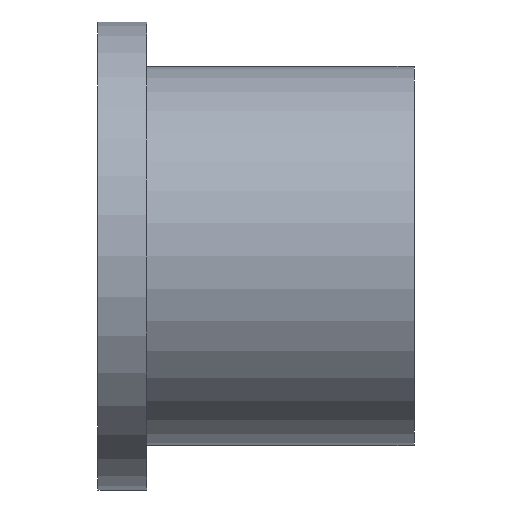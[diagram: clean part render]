
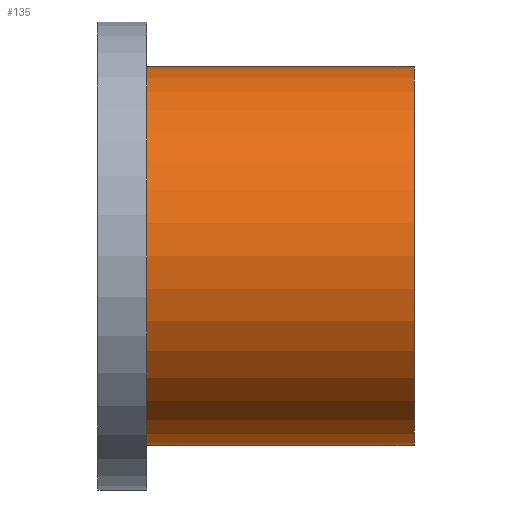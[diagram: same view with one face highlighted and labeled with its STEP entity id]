
A CAD part, front view. The second image highlights one B-rep face of the part: STEP entity #135.
In plain terms, the highlighted cylindrical face has radius 15.6 mm (diameter 31.2 mm), a full revolution.
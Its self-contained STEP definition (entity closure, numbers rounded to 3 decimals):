
#104=CARTESIAN_POINT('',(4.0,15.6,0.0));
#105=VERTEX_POINT('',#104);
#106=CARTESIAN_POINT('',(4.0,0.0,0.0));
#107=DIRECTION('',(1.0,0.0,0.0));
#108=DIRECTION('',(0.0,1.0,0.0));
#109=AXIS2_PLACEMENT_3D('',#106,#107,#108);
#110=CIRCLE('',#109,15.6);
#111=EDGE_CURVE('',#105,#105,#110,.T.);
#116=CARTESIAN_POINT('',(15.0,0.0,0.0));
#117=DIRECTION('',(1.0,0.0,0.0));
#118=DIRECTION('',(0.0,1.0,0.0));
#119=AXIS2_PLACEMENT_3D('',#116,#117,#118);
#120=CYLINDRICAL_SURFACE('',#119,15.6);
#121=CARTESIAN_POINT('',(26.0,15.6,0.0));
#122=VERTEX_POINT('',#121);
#123=CARTESIAN_POINT('',(26.0,0.0,0.0));
#124=DIRECTION('',(1.0,0.0,0.0));
#125=DIRECTION('',(0.0,1.0,0.0));
#126=AXIS2_PLACEMENT_3D('',#123,#124,#125);
#127=CIRCLE('',#126,15.6);
#128=EDGE_CURVE('',#122,#122,#127,.T.);
#129=ORIENTED_EDGE('',*,*,#128,.F.);
#130=EDGE_LOOP('',(#129));
#131=FACE_OUTER_BOUND('',#130,.T.);
#132=ORIENTED_EDGE('',*,*,#111,.T.);
#133=EDGE_LOOP('',(#132));
#134=FACE_BOUND('',#133,.T.);
#135=ADVANCED_FACE('',(#131,#134),#120,.T.);
